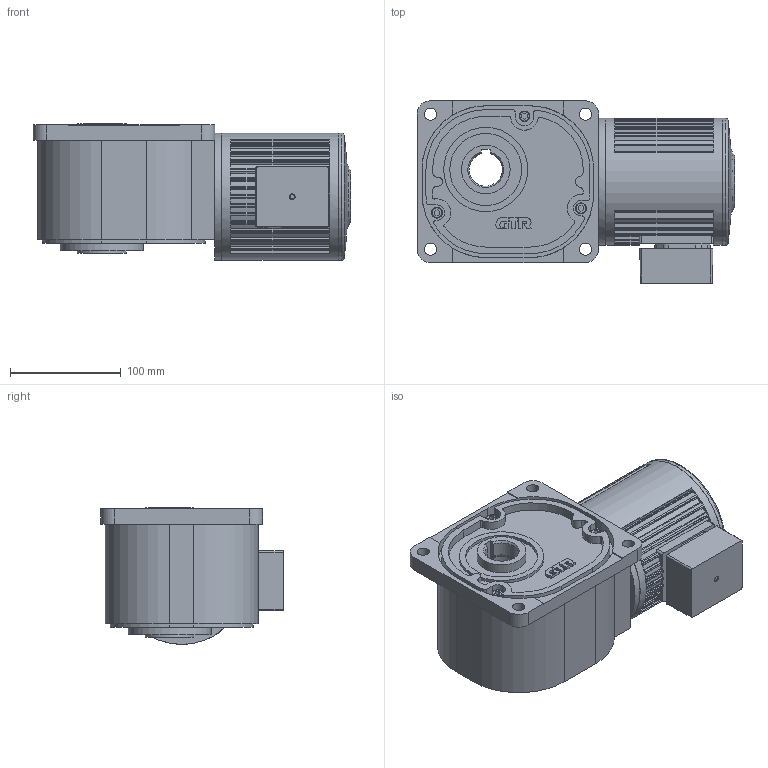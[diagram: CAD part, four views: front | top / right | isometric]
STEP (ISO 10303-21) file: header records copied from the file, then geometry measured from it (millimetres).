
FILE_DESCRIPTION( ( 'STEP AP203' ), ' ' );
FILE_NAME( 'p:/temp/worker_3/1012_3716/app_41_12017041201245416002278260eae72_000000_00_00_000000/format_1/FS30N30L-IPM020NJNNone.stp', '2017-04-11T23:24:55', ( '' ), ( '' ), ' ', 'PARTsolutions', ' ' );
FILE_SCHEMA( ( 'CONFIG_CONTROL_DESIGN' ) );
Length unit declared in the file: millimetre
Products named in the file (5): FS30N30L-IPM020NJNNone; _FS30; HI_T010; _010M; _J-BOX020
Assembly tree (4 placements, depth 2):
  FS30N30L-IPM020NJNNone
    _FS30
    HI_T010
    _010M
    _J-BOX020
Bounding box: 287 x 164.5 x 123.5 mm (x, y, z)
Volume: 3257627.7 mm3; surface area: 249548.6 mm2
Topology: 4 solids, 4 shells, 548 faces, 1460 edges, 966 vertices
Faces by surface type: plane 278, cylinder 255, cone 8, torus 6, bspline 1
Full cylindrical faces by diameter (mm): 6.6 x4, 9.5 x1, 10 x2, 11 x4, 12 x1, 44 x2, 65 x2, 75 x1, 76 x1, 114.5 x1, 115 x2
Entity records: 17311 total; most frequent: DIRECTION 3120, CARTESIAN_POINT 3027, ORIENTED_EDGE 2852, EDGE_CURVE 1426, AXIS2_PLACEMENT_3D 1151, VERTEX_POINT 962, LINE 818, VECTOR 818
